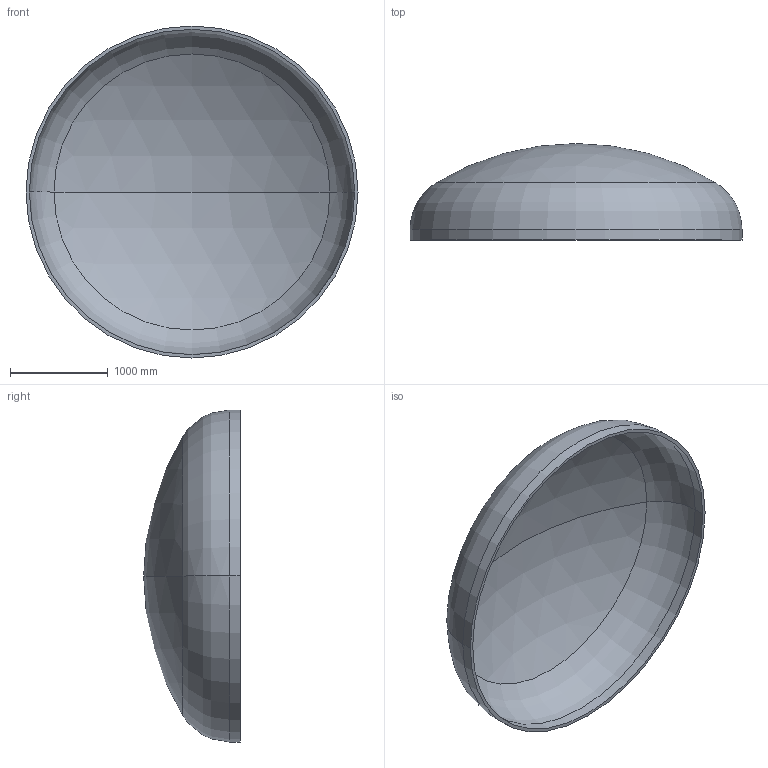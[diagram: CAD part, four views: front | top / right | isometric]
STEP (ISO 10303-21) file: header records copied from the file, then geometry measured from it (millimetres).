
FILE_DESCRIPTION (( 'STEP AP203' ), '1' );
FILE_NAME ('DIN 28013 Korbbogenform_-_Boden DIN 28013 - 3400 x 110 - I - s=34.step', '2016-07-01T19:25:15', ( '' ), ( '' ), 'SwSTEP 2.0', 'SolidWorks 2013', '' );
FILE_SCHEMA (( 'CONFIG_CONTROL_DESIGN' ));
Length unit declared in the file: millimetre
Products named in the file (1): DIN 28013 Korbbogenform_-_Boden DIN 28013 - 3400 x 110 - I - s=34
Bounding box: 3400 x 988.86 x 3400 mm (x, y, z)
Volume: 461688735.5 mm3; surface area: 27520108.5 mm2
Topology: 1 solids, 1 shells, 13 faces, 24 edges, 14 vertices
Faces by surface type: torus 4, cylinder 4, sphere 4, plane 1
Entity records: 407 total; most frequent: DIRECTION 72, CARTESIAN_POINT 52, ORIENTED_EDGE 48, AXIS2_PLACEMENT_3D 34, EDGE_CURVE 24, CIRCLE 20, VERTEX_POINT 14, EDGE_LOOP 14
